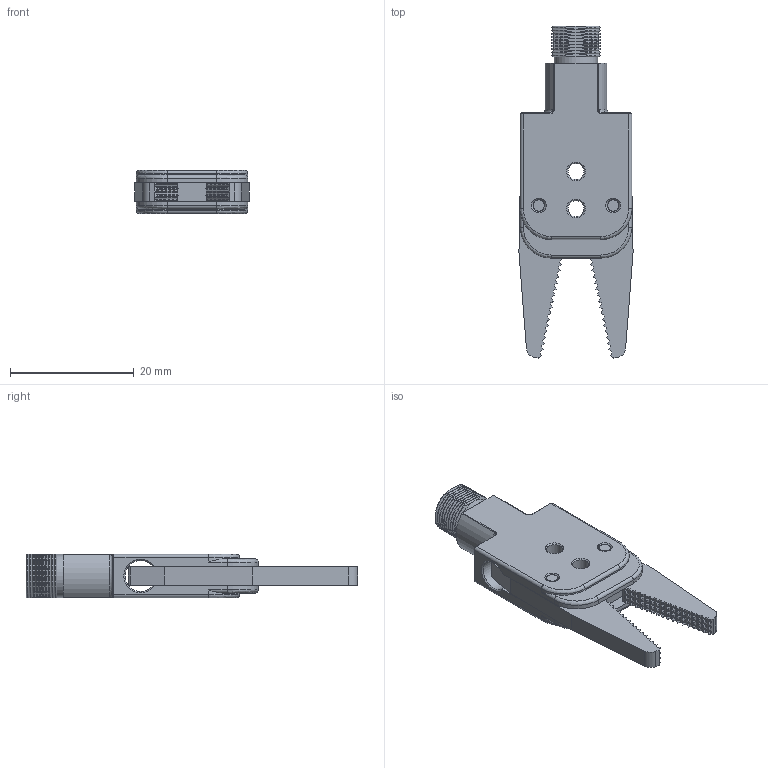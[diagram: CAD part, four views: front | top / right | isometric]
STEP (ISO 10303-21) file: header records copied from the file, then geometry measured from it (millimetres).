
FILE_DESCRIPTION(/* description */ (''),/* implementation_level */ '2;1');
FILE_NAME(/* name */ '_model1.stp',/* time_stamp */ '2023-03-08T11:01:05+08:00',/* author */ (''),/* organization */ (''),/* preprocessor_version */ 'ST-DEVELOPER v16',/* originating_system */ 'SIEMENS PLM Software NX 10.0',/* authorisation */ '');
FILE_SCHEMA (('AUTOMOTIVE_DESIGN { 1 0 10303 214 3 1 1 1 }'));
Length unit declared in the file: millimetre
Products named in the file (1): Admi115498B06ijf
Bounding box: 18.44 x 53.63 x 7 mm (x, y, z)
Volume: 3481.2 mm3; surface area: 3428.4 mm2
Topology: 1 solids, 1 shells, 690 faces, 1634 edges, 1012 vertices
Faces by surface type: plane 554, cylinder 63, cone 59, revolution 10, bspline 4
Full cylindrical faces by diameter (mm): 2.5 x1, 2.6 x2, 5 x1, 7 x1
Entity records: 24918 total; most frequent: CARTESIAN_POINT 4428, ORIENTED_EDGE 3212, DIRECTION 3052, EDGE_CURVE 1606, LINE 1332, VECTOR 1332, VERTEX_POINT 1003, AXIS2_PLACEMENT_3D 855
